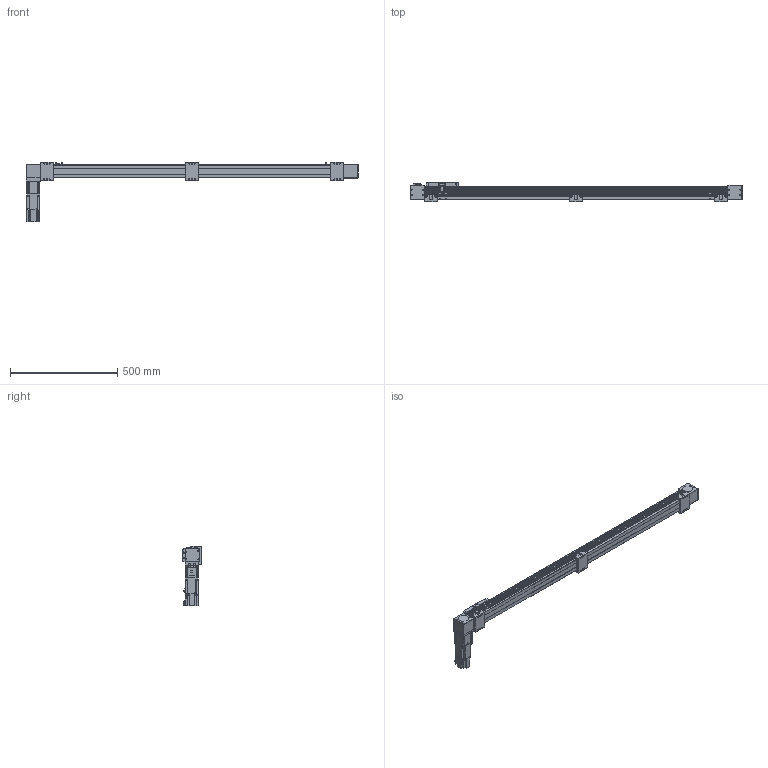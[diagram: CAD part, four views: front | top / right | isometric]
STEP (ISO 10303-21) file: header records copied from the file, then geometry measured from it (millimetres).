
FILE_DESCRIPTION(/* description */ ('STEP AP203'),/* implementation_level */ '2;1');
FILE_NAME(/* name */ 'SK60-P13-S1250-BR-T40-C1-N(0)',/* time_stamp */ '2023-04-06T03:59:49+02:00',/* author */ ('License CC BY-ND 4.0'),/* organization */ ('CADENAS'),/* preprocessor_version */ 'ST-DEVELOPER v19.3',/* originating_system */ 'PARTsolutions',/* authorisation */ ' ');
FILE_SCHEMA (('CONFIG_CONTROL_DESIGN'));
Length unit declared in the file: millimetre
Products named in the file (11): SK60-P13-S1250-BR-T40-C1-N(0); PSC140-sensor; SK60-S450_seat; SK60-S450-BL-C1_slider; SK60_body3; SK60_body6; SK60-BL_body2; T40-p1; SK60_body5; SK60_body4; SK60-S1250-BR-C1_body
Assembly tree (18 placements, depth 2):
  SK60-P13-S1250-BR-T40-C1-N(0)
    PSC140-sensor  x3
    SK60-S450_seat  x3
    SK60-S450-BL-C1_slider
    SK60_body3  x3
    SK60_body6  x2
    SK60-BL_body2  x2
    T40-p1
    SK60_body5
    SK60_body4
    SK60-S1250-BR-C1_body
Bounding box: 1550 x 90 x 279.1 mm (x, y, z)
Volume: 5871190.3 mm3; surface area: 770485.7 mm2
Topology: 18 solids, 22 shells, 878 faces, 2207 edges, 1458 vertices
Faces by surface type: plane 568, cylinder 282, cone 26, torus 2
Full cylindrical faces by diameter (mm): 2.8 x3, 3.3 x4, 4.2 x8, 4.5 x26, 4.6 x3, 4.917 x20, 5 x2, 5.478 x4, 5.5 x23, 6.5 x6, 8 x4, 8.5 x4, 9.988 x4, 10 x12, 13.556 x1, 14 x1, 14.586 x1, 19.692 x1, 38.432 x2, 43 x1, 44 x3, 47 x2, 50 x2
Entity records: 19379 total; most frequent: DIRECTION 3294, CARTESIAN_POINT 3290, ORIENTED_EDGE 3050, EDGE_CURVE 1525, AXIS2_PLACEMENT_3D 1101, LINE 1092, VECTOR 1092, VERTEX_POINT 1077
